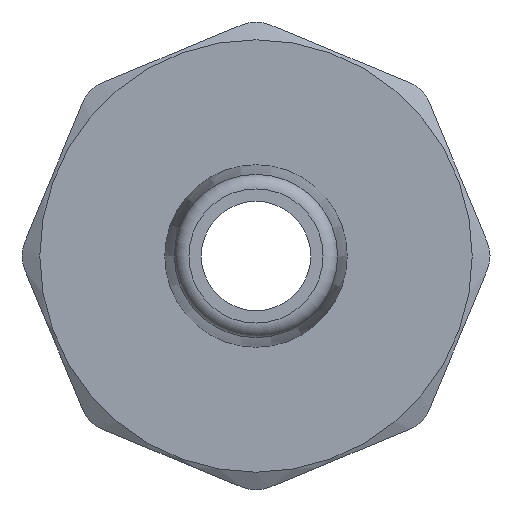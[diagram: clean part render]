
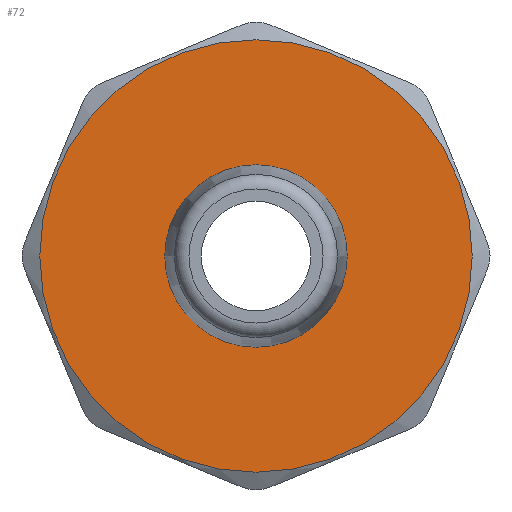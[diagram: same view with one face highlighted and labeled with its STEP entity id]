
A CAD part, front view. The second image highlights one B-rep face of the part: STEP entity #72.
In plain terms, the highlighted planar face has unit normal (0, -1, 0).
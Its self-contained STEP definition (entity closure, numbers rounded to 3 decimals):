
#72=ADVANCED_FACE('',(#301,#303),#305,.F.);
#301=FACE_BOUND('',#302,.T.);
#302=EDGE_LOOP('',(#506));
#303=FACE_BOUND('',#304,.T.);
#304=EDGE_LOOP('',(#507));
#305=PLANE('',#306);
#306=AXIS2_PLACEMENT_3D('',#307,#308,#309);
#307=CARTESIAN_POINT('',(0.,-15.,0.));
#308=DIRECTION('',(0.,1.,0.));
#309=DIRECTION('',(-1.,0.,0.));
#506=ORIENTED_EDGE('',*,*,#586,.T.);
#507=ORIENTED_EDGE('',*,*,#588,.F.);
#586=EDGE_CURVE('',#703,#703,#704,.F.);
#588=EDGE_CURVE('',#707,#707,#708,.T.);
#703=VERTEX_POINT('',#1955);
#704=CIRCLE('',#1956,11.85);
#707=VERTEX_POINT('',#1965);
#708=CIRCLE('',#1966,5.);
#1955=CARTESIAN_POINT('',(11.85,-15.,0.));
#1956=AXIS2_PLACEMENT_3D('',#1957,#1958,#1959);
#1957=CARTESIAN_POINT('',(0.,-15.,0.));
#1958=DIRECTION('',(0.,1.,0.));
#1959=DIRECTION('',(1.,0.,0.));
#1965=CARTESIAN_POINT('',(-5.,-15.,0.));
#1966=AXIS2_PLACEMENT_3D('',#1967,#1968,#1969);
#1967=CARTESIAN_POINT('',(0.,-15.,0.));
#1968=DIRECTION('',(0.,-1.,0.));
#1969=DIRECTION('',(-1.,0.,0.));
